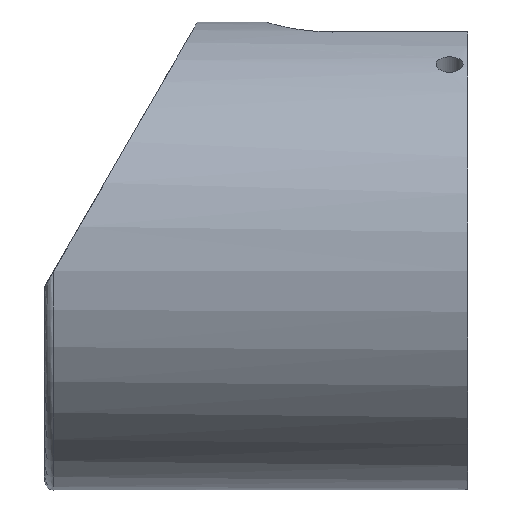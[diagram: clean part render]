
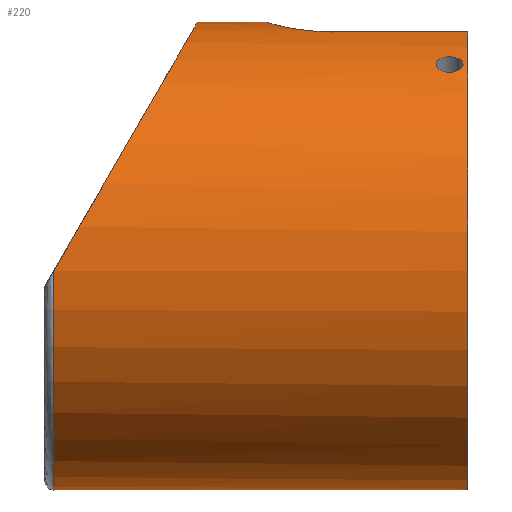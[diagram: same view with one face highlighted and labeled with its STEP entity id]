
A CAD part, left-side view. The second image highlights one B-rep face of the part: STEP entity #220.
In plain terms, the highlighted cylindrical face has radius 26 mm (diameter 52 mm), a full revolution.
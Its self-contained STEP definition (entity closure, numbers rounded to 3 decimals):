
#29=ELLIPSE('',#250,30.022,26.);
#31=B_SPLINE_CURVE_WITH_KNOTS('',3,(#332,#333,#334,#335,#336,#337,#338,
#339,#340,#341),.UNSPECIFIED.,.F.,.F.,(4,1,1,1,1,1,1,4),(0.,
0.003,0.006,0.009,0.012,
0.015,0.018,0.024),.UNSPECIFIED.);
#32=B_SPLINE_CURVE_WITH_KNOTS('',3,(#344,#345,#346,#347,#348,#349,#350,
#351,#352,#353,#354),.UNSPECIFIED.,.T.,.F.,(1,1,1,1,1,1,1,1,1,1,1,1,1,1,
1),(-0.004,-0.002,-0.001,0.,0.001,
0.002,0.004,0.005,0.006,
0.007,0.008,0.009,0.011,
0.012,0.013),.UNSPECIFIED.);
#33=B_SPLINE_CURVE_WITH_KNOTS('',3,(#356,#357,#358,#359,#360,#361,#362,
#363,#364,#365,#366),.UNSPECIFIED.,.T.,.F.,(1,1,1,1,1,1,1,1,1,1,1,1,1,1,
1),(-0.004,-0.002,-0.001,0.,0.001,
0.002,0.004,0.005,0.006,
0.007,0.008,0.009,0.011,
0.012,0.013),.UNSPECIFIED.);
#41=LINE('',#330,#51);
#42=LINE('',#343,#52);
#51=VECTOR('',#275,1000.);
#52=VECTOR('',#276,1000.);
#61=ORIENTED_EDGE('',*,*,#117,.F.);
#62=ORIENTED_EDGE('',*,*,#118,.F.);
#63=ORIENTED_EDGE('',*,*,#119,.F.);
#64=ORIENTED_EDGE('',*,*,#120,.F.);
#65=ORIENTED_EDGE('',*,*,#121,.F.);
#66=ORIENTED_EDGE('',*,*,#122,.F.);
#67=ORIENTED_EDGE('',*,*,#123,.T.);
#68=ORIENTED_EDGE('',*,*,#124,.F.);
#117=EDGE_CURVE('',#145,#146,#165,.T.);
#118=EDGE_CURVE('',#147,#145,#41,.T.);
#119=EDGE_CURVE('',#148,#147,#31,.T.);
#120=EDGE_CURVE('',#146,#148,#42,.F.);
#121=EDGE_CURVE('',#149,#149,#32,.T.);
#122=EDGE_CURVE('',#150,#150,#33,.T.);
#123=EDGE_CURVE('',#151,#152,#166,.T.);
#124=EDGE_CURVE('',#151,#152,#29,.T.);
#145=VERTEX_POINT('',#328);
#146=VERTEX_POINT('',#329);
#147=VERTEX_POINT('',#331);
#148=VERTEX_POINT('',#342);
#149=VERTEX_POINT('',#355);
#150=VERTEX_POINT('',#367);
#151=VERTEX_POINT('',#369);
#152=VERTEX_POINT('',#370);
#165=CIRCLE('',#248,26.);
#166=CIRCLE('',#249,26.);
#171=EDGE_LOOP('',(#61,#62,#63,#64));
#172=EDGE_LOOP('',(#65));
#173=EDGE_LOOP('',(#66));
#174=EDGE_LOOP('',(#67,#68));
#193=FACE_BOUND('',#171,.T.);
#194=FACE_BOUND('',#172,.T.);
#195=FACE_BOUND('',#173,.T.);
#196=FACE_BOUND('',#174,.T.);
#215=CYLINDRICAL_SURFACE('',#247,26.);
#220=ADVANCED_FACE('',(#193,#194,#195,#196),#215,.T.);
#247=AXIS2_PLACEMENT_3D('',#326,#271,#272);
#248=AXIS2_PLACEMENT_3D('',#327,#273,#274);
#249=AXIS2_PLACEMENT_3D('',#368,#277,#278);
#250=AXIS2_PLACEMENT_3D('',#371,#279,#280);
#271=DIRECTION('',(0.,-1.,0.));
#272=DIRECTION('',(0.,0.,-1.));
#273=DIRECTION('',(0.,-1.,0.));
#274=DIRECTION('',(0.,0.,-1.));
#275=DIRECTION('',(0.,-1.,0.));
#276=DIRECTION('',(0.,-1.,0.));
#277=DIRECTION('',(0.,-1.,0.));
#278=DIRECTION('',(0.,0.,-1.));
#279=DIRECTION('',(0.,0.866,0.5));
#280=DIRECTION('',(0.,-0.5,0.866));
#326=CARTESIAN_POINT('',(0.,44.,0.));
#327=CARTESIAN_POINT('',(0.,0.,0.));
#328=CARTESIAN_POINT('',(-7.5,0.,24.895));
#329=CARTESIAN_POINT('',(7.5,0.,24.895));
#330=CARTESIAN_POINT('',(-7.5,44.,24.895));
#331=CARTESIAN_POINT('',(-7.5,15.,24.895));
#332=CARTESIAN_POINT('',(7.5,15.,24.895));
#333=CARTESIAN_POINT('',(7.5,15.996,24.895));
#334=CARTESIAN_POINT('',(7.103,17.956,25.019));
#335=CARTESIAN_POINT('',(5.439,20.44,25.455));
#336=CARTESIAN_POINT('',(2.962,22.101,25.881));
#337=CARTESIAN_POINT('',(0.008,22.698,26.059));
#338=CARTESIAN_POINT('',(-2.952,22.107,25.883));
#339=CARTESIAN_POINT('',(-6.272,19.887,25.308));
#340=CARTESIAN_POINT('',(-7.5,16.993,24.895));
#341=CARTESIAN_POINT('',(-7.5,15.,24.895));
#342=CARTESIAN_POINT('',(7.5,15.,24.895));
#343=CARTESIAN_POINT('',(7.5,44.,24.895));
#344=CARTESIAN_POINT('',(-15.863,3.177,20.607));
#345=CARTESIAN_POINT('',(-16.244,2.,20.3));
#346=CARTESIAN_POINT('',(-15.863,0.824,20.606));
#347=CARTESIAN_POINT('',(-14.92,0.338,21.306));
#348=CARTESIAN_POINT('',(-13.938,0.824,21.954));
#349=CARTESIAN_POINT('',(-13.52,2.,22.207));
#350=CARTESIAN_POINT('',(-13.937,3.174,21.955));
#351=CARTESIAN_POINT('',(-14.918,3.662,21.308));
#352=CARTESIAN_POINT('',(-15.863,3.177,20.607));
#353=CARTESIAN_POINT('',(-16.244,2.,20.3));
#354=CARTESIAN_POINT('',(-15.863,0.824,20.606));
#355=CARTESIAN_POINT('',(-16.117,2.,20.402));
#356=CARTESIAN_POINT('',(13.939,3.177,21.954));
#357=CARTESIAN_POINT('',(13.52,2.,22.207));
#358=CARTESIAN_POINT('',(13.938,0.824,21.954));
#359=CARTESIAN_POINT('',(14.918,0.338,21.308));
#360=CARTESIAN_POINT('',(15.863,0.824,20.606));
#361=CARTESIAN_POINT('',(16.243,2.,20.3));
#362=CARTESIAN_POINT('',(15.864,3.174,20.605));
#363=CARTESIAN_POINT('',(14.921,3.662,21.306));
#364=CARTESIAN_POINT('',(13.939,3.177,21.954));
#365=CARTESIAN_POINT('',(13.52,2.,22.207));
#366=CARTESIAN_POINT('',(13.938,0.824,21.954));
#367=CARTESIAN_POINT('',(13.659,2.,22.123));
#368=CARTESIAN_POINT('',(0.,46.,0.));
#369=CARTESIAN_POINT('',(-25.944,46.,-1.713));
#370=CARTESIAN_POINT('',(25.944,46.,-1.713));
#371=CARTESIAN_POINT('',(0.,45.011,0.));
